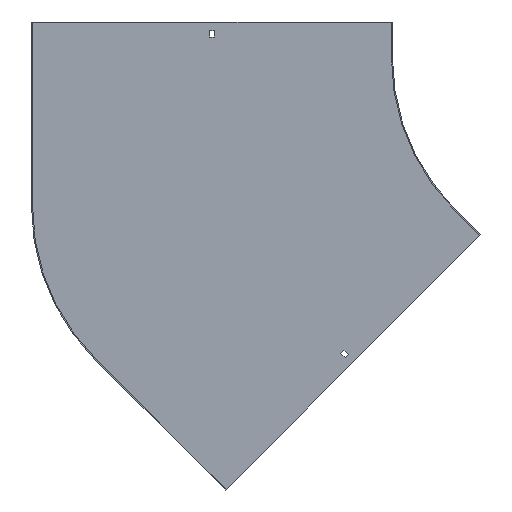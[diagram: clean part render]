
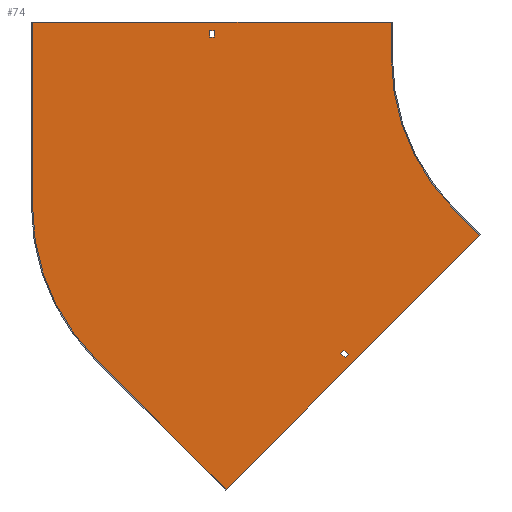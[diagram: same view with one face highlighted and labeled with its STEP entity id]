
A CAD part, front view. The second image highlights one B-rep face of the part: STEP entity #74.
In plain terms, the highlighted planar face has unit normal (0, -1, 0).
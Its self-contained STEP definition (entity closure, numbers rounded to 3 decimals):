
#1 = CARTESIAN_POINT ( 'NONE',  ( -391.207, -1.5, -391.207 ) ) ;
#6 = DIRECTION ( 'NONE',  ( 0., 1., 0. ) ) ;
#11 = VERTEX_POINT ( 'NONE', #103 ) ;
#12 = CARTESIAN_POINT ( 'NONE',  ( -359.741, -1.5, -413.481 ) ) ;
#34 = EDGE_CURVE ( 'NONE', #468, #56, #254, .T. ) ;
#40 = VECTOR ( 'NONE', #813, 1000. ) ;
#47 = DIRECTION ( 'NONE',  ( -1., 0., 0. ) ) ;
#51 = VECTOR ( 'NONE', #512, 1000. ) ;
#56 = VERTEX_POINT ( 'NONE', #58 ) ;
#58 = CARTESIAN_POINT ( 'NONE',  ( -300., -1.5, 50. ) ) ;
#63 = EDGE_CURVE ( 'NONE', #56, #418, #197, .T. ) ;
#71 = LINE ( 'NONE', #345, #51 ) ;
#74 = ADVANCED_FACE ( 'NONE', ( #132, #270, #133 ), #397, .T. ) ;
#82 = LINE ( 'NONE', #551, #824 ) ;
#86 = ORIENTED_EDGE ( 'NONE', *, *, #395, .F. ) ;
#91 = LINE ( 'NONE', #682, #516 ) ;
#103 = CARTESIAN_POINT ( 'NONE',  ( -370.701, -1.5, -411.713 ) ) ;
#128 = VECTOR ( 'NONE', #730, 1000. ) ;
#132 = FACE_BOUND ( 'NONE', #536, .T. ) ;
#133 = FACE_BOUND ( 'NONE', #674, .T. ) ;
#139 = EDGE_CURVE ( 'NONE', #597, #719, #543, .T. ) ;
#146 = DIRECTION ( 'NONE',  ( 0., 0., 1. ) ) ;
#148 = VECTOR ( 'NONE', #451, 1000. ) ;
#149 = LINE ( 'NONE', #804, #40 ) ;
#151 = DIRECTION ( 'NONE',  ( 0.707, 0., -0.707 ) ) ;
#174 = ORIENTED_EDGE ( 'NONE', *, *, #34, .F. ) ;
#181 = EDGE_CURVE ( 'NONE', #243, #848, #488, .T. ) ;
#187 = CARTESIAN_POINT ( 'NONE',  ( -553.25, -1.5, 29. ) ) ;
#197 = LINE ( 'NONE', #593, #128 ) ;
#205 = CIRCLE ( 'NONE', #822, 300. ) ;
#206 = CARTESIAN_POINT ( 'NONE',  ( -175.716, -1.5, -246.427 ) ) ;
#221 = VERTEX_POINT ( 'NONE', #622 ) ;
#223 = CARTESIAN_POINT ( 'NONE',  ( -800., -1.5, 50. ) ) ;
#231 = CARTESIAN_POINT ( 'NONE',  ( -546.75, -1.5, 0. ) ) ;
#232 = ORIENTED_EDGE ( 'NONE', *, *, #508, .F. ) ;
#234 = DIRECTION ( 'NONE',  ( 1., 0., 0. ) ) ;
#243 = VERTEX_POINT ( 'NONE', #557 ) ;
#254 = LINE ( 'NONE', #781, #260 ) ;
#260 = VECTOR ( 'NONE', #463, 1000. ) ;
#268 = DIRECTION ( 'NONE',  ( 0., 0., -1. ) ) ;
#270 = FACE_OUTER_BOUND ( 'NONE', #328, .T. ) ;
#282 = CARTESIAN_POINT ( 'NONE',  ( -500., -1.5, -207.107 ) ) ;
#289 = DIRECTION ( 'NONE',  ( -0.707, 0., -0.707 ) ) ;
#321 = LINE ( 'NONE', #332, #808 ) ;
#328 = EDGE_LOOP ( 'NONE', ( #174, #232, #666, #390, #408, #86, #448, #776 ) ) ;
#332 = CARTESIAN_POINT ( 'NONE',  ( 0., -1.5, 38. ) ) ;
#336 = DIRECTION ( 'NONE',  ( -0.707, 0., -0.707 ) ) ;
#342 = CARTESIAN_POINT ( 'NONE',  ( 0., -1.5, 0. ) ) ;
#345 = CARTESIAN_POINT ( 'NONE',  ( -800., -1.5, -207.107 ) ) ;
#348 = DIRECTION ( 'NONE',  ( 0., -1., 0. ) ) ;
#355 = CIRCLE ( 'NONE', #635, 300. ) ;
#360 = CARTESIAN_POINT ( 'NONE',  ( 0., -1.5, 0. ) ) ;
#366 = EDGE_CURVE ( 'NONE', #848, #455, #678, .T. ) ;
#370 = VECTOR ( 'NONE', #336, 1000. ) ;
#373 = EDGE_CURVE ( 'NONE', #455, #11, #82, .T. ) ;
#377 = CARTESIAN_POINT ( 'NONE',  ( 0., -1.5, 29. ) ) ;
#387 = AXIS2_PLACEMENT_3D ( 'NONE', #342, #859, #268 ) ;
#390 = ORIENTED_EDGE ( 'NONE', *, *, #547, .F. ) ;
#395 = EDGE_CURVE ( 'NONE', #526, #597, #149, .T. ) ;
#397 = PLANE ( 'NONE',  #387 ) ;
#399 = LINE ( 'NONE', #720, #148 ) ;
#400 = ORIENTED_EDGE ( 'NONE', *, *, #845, .F. ) ;
#408 = ORIENTED_EDGE ( 'NONE', *, *, #139, .F. ) ;
#409 = VECTOR ( 'NONE', #629, 1000. ) ;
#415 = CARTESIAN_POINT ( 'NONE',  ( -712.132, -1.5, -419.239 ) ) ;
#418 = VERTEX_POINT ( 'NONE', #627 ) ;
#419 = EDGE_CURVE ( 'NONE', #418, #526, #355, .T. ) ;
#423 = EDGE_CURVE ( 'NONE', #850, #792, #205, .T. ) ;
#424 = ORIENTED_EDGE ( 'NONE', *, *, #181, .F. ) ;
#440 = EDGE_CURVE ( 'NONE', #594, #221, #819, .T. ) ;
#448 = ORIENTED_EDGE ( 'NONE', *, *, #419, .F. ) ;
#449 = EDGE_CURVE ( 'NONE', #773, #471, #91, .T. ) ;
#451 = DIRECTION ( 'NONE',  ( -0.707, 0., 0.707 ) ) ;
#455 = VERTEX_POINT ( 'NONE', #625 ) ;
#463 = DIRECTION ( 'NONE',  ( 1., 0., 0. ) ) ;
#467 = VECTOR ( 'NONE', #47, 1000. ) ;
#468 = VERTEX_POINT ( 'NONE', #223 ) ;
#471 = VERTEX_POINT ( 'NONE', #560 ) ;
#472 = CARTESIAN_POINT ( 'NONE',  ( 26.87, -1.5, -26.87 ) ) ;
#473 = DIRECTION ( 'NONE',  ( 0., 0., -1. ) ) ;
#483 = DIRECTION ( 'NONE',  ( 0., 0., -1. ) ) ;
#488 = LINE ( 'NONE', #472, #675 ) ;
#489 = DIRECTION ( 'NONE',  ( 0., 0., -1. ) ) ;
#494 = VECTOR ( 'NONE', #151, 1000. ) ;
#508 = EDGE_CURVE ( 'NONE', #792, #468, #71, .T. ) ;
#511 = ORIENTED_EDGE ( 'NONE', *, *, #449, .T. ) ;
#512 = DIRECTION ( 'NONE',  ( 0., 0., 1. ) ) ;
#516 = VECTOR ( 'NONE', #146, 1000. ) ;
#518 = CARTESIAN_POINT ( 'NONE',  ( -546.75, -1.5, 38. ) ) ;
#526 = VERTEX_POINT ( 'NONE', #825 ) ;
#536 = EDGE_LOOP ( 'NONE', ( #725, #424, #400, #587 ) ) ;
#539 = CARTESIAN_POINT ( 'NONE',  ( -386.611, -1.5, -386.611 ) ) ;
#543 = LINE ( 'NONE', #206, #370 ) ;
#547 = EDGE_CURVE ( 'NONE', #719, #850, #399, .T. ) ;
#551 = CARTESIAN_POINT ( 'NONE',  ( 20.506, -1.5, -20.506 ) ) ;
#557 = CARTESIAN_POINT ( 'NONE',  ( -364.337, -1.5, -418.077 ) ) ;
#560 = CARTESIAN_POINT ( 'NONE',  ( -553.25, -1.5, 38. ) ) ;
#567 = LINE ( 'NONE', #377, #467 ) ;
#587 = ORIENTED_EDGE ( 'NONE', *, *, #373, .F. ) ;
#593 = CARTESIAN_POINT ( 'NONE',  ( -300., -1.5, 50. ) ) ;
#594 = VERTEX_POINT ( 'NONE', #518 ) ;
#597 = VERTEX_POINT ( 'NONE', #724 ) ;
#600 = LINE ( 'NONE', #1, #494 ) ;
#613 = EDGE_CURVE ( 'NONE', #471, #594, #321, .T. ) ;
#622 = CARTESIAN_POINT ( 'NONE',  ( -546.75, -1.5, 29. ) ) ;
#625 = CARTESIAN_POINT ( 'NONE',  ( -366.105, -1.5, -407.117 ) ) ;
#626 = DIRECTION ( 'NONE',  ( 0.707, 0., 0.707 ) ) ;
#627 = CARTESIAN_POINT ( 'NONE',  ( -300., -1.5, 0. ) ) ;
#629 = DIRECTION ( 'NONE',  ( -0.707, 0., 0.707 ) ) ;
#635 = AXIS2_PLACEMENT_3D ( 'NONE', #360, #348, #483 ) ;
#658 = ORIENTED_EDGE ( 'NONE', *, *, #711, .T. ) ;
#666 = ORIENTED_EDGE ( 'NONE', *, *, #423, .F. ) ;
#674 = EDGE_LOOP ( 'NONE', ( #797, #787, #658, #511 ) ) ;
#675 = VECTOR ( 'NONE', #626, 1000. ) ;
#678 = LINE ( 'NONE', #539, #409 ) ;
#682 = CARTESIAN_POINT ( 'NONE',  ( -553.25, -1.5, 0. ) ) ;
#699 = CARTESIAN_POINT ( 'NONE',  ( -800., -1.5, -207.107 ) ) ;
#711 = EDGE_CURVE ( 'NONE', #221, #773, #567, .T. ) ;
#719 = VERTEX_POINT ( 'NONE', #775 ) ;
#720 = CARTESIAN_POINT ( 'NONE',  ( -530.33, -1.5, -601.041 ) ) ;
#724 = CARTESIAN_POINT ( 'NONE',  ( -176.777, -1.5, -247.487 ) ) ;
#725 = ORIENTED_EDGE ( 'NONE', *, *, #366, .F. ) ;
#730 = DIRECTION ( 'NONE',  ( 0., 0., -1. ) ) ;
#773 = VERTEX_POINT ( 'NONE', #187 ) ;
#775 = CARTESIAN_POINT ( 'NONE',  ( -530.33, -1.5, -601.041 ) ) ;
#776 = ORIENTED_EDGE ( 'NONE', *, *, #63, .F. ) ;
#780 = VECTOR ( 'NONE', #489, 1000. ) ;
#781 = CARTESIAN_POINT ( 'NONE',  ( -801.5, -1.5, 50. ) ) ;
#787 = ORIENTED_EDGE ( 'NONE', *, *, #440, .T. ) ;
#792 = VERTEX_POINT ( 'NONE', #699 ) ;
#797 = ORIENTED_EDGE ( 'NONE', *, *, #613, .T. ) ;
#804 = CARTESIAN_POINT ( 'NONE',  ( -212.132, -1.5, -212.132 ) ) ;
#808 = VECTOR ( 'NONE', #234, 1000. ) ;
#813 = DIRECTION ( 'NONE',  ( 0.707, 0., -0.707 ) ) ;
#819 = LINE ( 'NONE', #231, #780 ) ;
#822 = AXIS2_PLACEMENT_3D ( 'NONE', #282, #6, #473 ) ;
#824 = VECTOR ( 'NONE', #289, 1000. ) ;
#825 = CARTESIAN_POINT ( 'NONE',  ( -212.132, -1.5, -212.132 ) ) ;
#845 = EDGE_CURVE ( 'NONE', #11, #243, #600, .T. ) ;
#848 = VERTEX_POINT ( 'NONE', #12 ) ;
#850 = VERTEX_POINT ( 'NONE', #415 ) ;
#859 = DIRECTION ( 'NONE',  ( 0., -1., 0. ) ) ;
